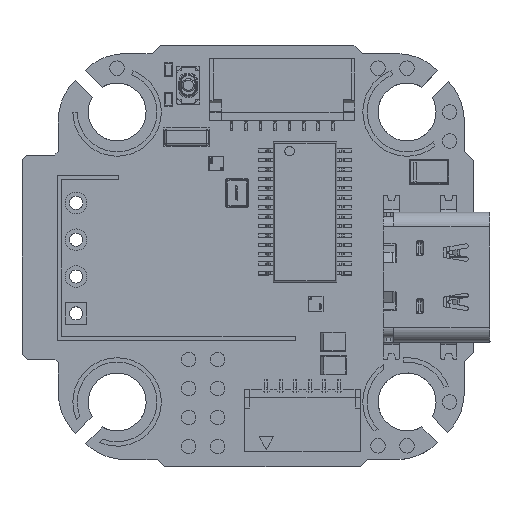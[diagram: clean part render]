
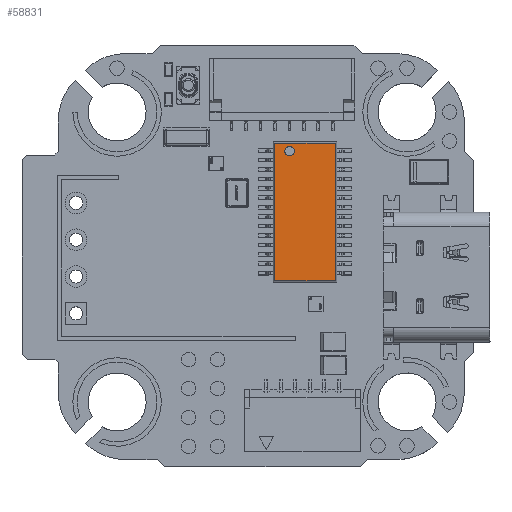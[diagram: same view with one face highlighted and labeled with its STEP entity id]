
A CAD part, top view. The second image highlights one B-rep face of the part: STEP entity #58831.
In plain terms, the highlighted planar face has unit normal (0, 0, 1).
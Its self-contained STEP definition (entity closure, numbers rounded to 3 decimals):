
#191 = EDGE_LOOP ( 'NONE', ( #72189, #223367, #135286, #268260 ) ) ;
#3828 = VECTOR ( 'NONE', #44904, 1000. ) ;
#8928 = VERTEX_POINT ( 'NONE', #186360 ) ;
#13176 = CARTESIAN_POINT ( 'NONE',  ( 15.956, 21.273, 1.2 ) ) ;
#19686 = EDGE_CURVE ( 'NONE', #27307, #118987, #253906, .T. ) ;
#27307 = VERTEX_POINT ( 'NONE', #238812 ) ;
#40329 = CARTESIAN_POINT ( 'NONE',  ( 18.121, 21.833, 1.2 ) ) ;
#43546 = EDGE_CURVE ( 'NONE', #118987, #27307, #168461, .T. ) ;
#44904 = DIRECTION ( 'NONE',  ( 0., 1., 0. ) ) ;
#49308 = VECTOR ( 'NONE', #190837, 1000. ) ;
#52207 = PLANE ( 'NONE',  #62151 ) ;
#55513 = EDGE_CURVE ( 'NONE', #63864, #121548, #196479, .T. ) ;
#58572 = CARTESIAN_POINT ( 'NONE',  ( 15.956, 20.943, 1.2 ) ) ;
#58831 = ADVANCED_FACE ( 'NONE', ( #245648, #139352 ), #52207, .T. ) ;
#59026 = EDGE_LOOP ( 'NONE', ( #151341, #115274 ) ) ;
#59739 = AXIS2_PLACEMENT_3D ( 'NONE', #100853, #118909, #225278 ) ;
#62151 = AXIS2_PLACEMENT_3D ( 'NONE', #182133, #242950, #179399 ) ;
#63114 = CARTESIAN_POINT ( 'NONE',  ( 14.921, 12.333, 1.2 ) ) ;
#63864 = VERTEX_POINT ( 'NONE', #69889 ) ;
#69889 = CARTESIAN_POINT ( 'NONE',  ( 19.121, 12.333, 1.2 ) ) ;
#70415 = CARTESIAN_POINT ( 'NONE',  ( 19.121, 14.658, 1.2 ) ) ;
#72189 = ORIENTED_EDGE ( 'NONE', *, *, #55513, .F. ) ;
#76815 = DIRECTION ( 'NONE',  ( 0., 0., -1. ) ) ;
#100853 = CARTESIAN_POINT ( 'NONE',  ( 15.956, 21.273, 1.2 ) ) ;
#103105 = LINE ( 'NONE', #250861, #3828 ) ;
#112819 = EDGE_CURVE ( 'NONE', #8928, #63864, #259700, .T. ) ;
#115274 = ORIENTED_EDGE ( 'NONE', *, *, #19686, .T. ) ;
#118909 = DIRECTION ( 'NONE',  ( 0., 0., -1. ) ) ;
#118987 = VERTEX_POINT ( 'NONE', #58572 ) ;
#121548 = VERTEX_POINT ( 'NONE', #63114 ) ;
#126464 = VERTEX_POINT ( 'NONE', #269046 ) ;
#132899 = DIRECTION ( 'NONE',  ( -1., 0., 0. ) ) ;
#135286 = ORIENTED_EDGE ( 'NONE', *, *, #175977, .F. ) ;
#139110 = DIRECTION ( 'NONE',  ( 0., -1., 0. ) ) ;
#139352 = FACE_BOUND ( 'NONE', #59026, .T. ) ;
#151341 = ORIENTED_EDGE ( 'NONE', *, *, #43546, .T. ) ;
#168461 = CIRCLE ( 'NONE', #269834, 0.33 ) ;
#170223 = DIRECTION ( 'NONE',  ( 1., 0., 0. ) ) ;
#175977 = EDGE_CURVE ( 'NONE', #126464, #8928, #229740, .T. ) ;
#179399 = DIRECTION ( 'NONE',  ( 0., 1., 0. ) ) ;
#182133 = CARTESIAN_POINT ( 'NONE',  ( 17.021, 17.083, 1.2 ) ) ;
#183614 = VECTOR ( 'NONE', #132899, 1000. ) ;
#186360 = CARTESIAN_POINT ( 'NONE',  ( 19.121, 21.833, 1.2 ) ) ;
#190837 = DIRECTION ( 'NONE',  ( 0., -1., 0. ) ) ;
#192413 = CARTESIAN_POINT ( 'NONE',  ( 15.921, 12.333, 1.2 ) ) ;
#196479 = LINE ( 'NONE', #192413, #183614 ) ;
#223367 = ORIENTED_EDGE ( 'NONE', *, *, #112819, .F. ) ;
#225278 = DIRECTION ( 'NONE',  ( 0., -1., 0. ) ) ;
#229740 = LINE ( 'NONE', #40329, #247933 ) ;
#238812 = CARTESIAN_POINT ( 'NONE',  ( 15.956, 21.603, 1.2 ) ) ;
#242950 = DIRECTION ( 'NONE',  ( 0., 0., 1. ) ) ;
#245648 = FACE_OUTER_BOUND ( 'NONE', #191, .T. ) ;
#247409 = EDGE_CURVE ( 'NONE', #121548, #126464, #103105, .T. ) ;
#247933 = VECTOR ( 'NONE', #170223, 1000. ) ;
#250861 = CARTESIAN_POINT ( 'NONE',  ( 14.921, 19.508, 1.2 ) ) ;
#253906 = CIRCLE ( 'NONE', #59739, 0.33 ) ;
#259700 = LINE ( 'NONE', #70415, #49308 ) ;
#268260 = ORIENTED_EDGE ( 'NONE', *, *, #247409, .F. ) ;
#269046 = CARTESIAN_POINT ( 'NONE',  ( 14.921, 21.833, 1.2 ) ) ;
#269834 = AXIS2_PLACEMENT_3D ( 'NONE', #13176, #76815, #139110 ) ;
